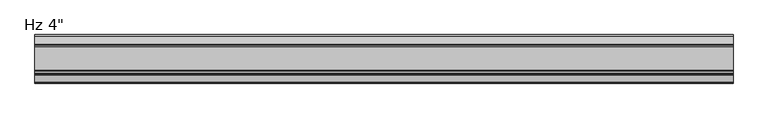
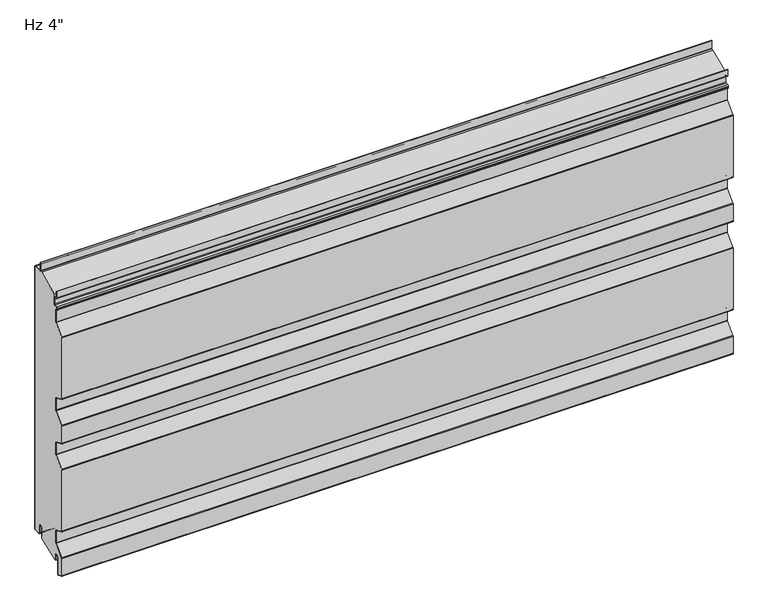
"""IFC4 building model written with IfcOpenShell, lengths in millimetres: plate geometry."""

from ifc_helpers import new_model, si_unit, point, frame, frame_2d, origin, place, context, project, spatial, polyline, circle_curve, trimmed, segment, composite_curve, outline, extrude, source, transform, mapped, element, save


def plate_84ef4001(model_context):
    return source(origin(), model_context, "Body", "SweptSolid", [
        extrude(outline(composite_curve([segment(polyline([(-26.4011912, 19.05), (-26.4011912, -3.1976612), (-74.633822, -23.01875), (-76.7886912, -23.01875), (-76.7886912, -11.90625)]), True, "CONTINUOUS"), segment(trimmed(circle_curve(frame_2d((-81.7574412, -11.90625)), 4.96875), [point((-76.7886912, -11.90625))], [point((-86.7261912, -11.90625))], True, "CARTESIAN"), True, "CONTINUOUS"), segment(polyline([(-86.7261912, -11.90625), (-86.7261912, -48.8194049)]), True, "CONTINUOUS"), segment(trimmed(circle_curve(frame_2d((-88.1074412, -48.8194049)), 1.38125), [point((-86.7261912, -48.8194049))], [point((-88.6666208, -50.0824052))], False, "CARTESIAN"), True, "CONTINUOUS"), segment(polyline([(-88.6666208, -50.0824052), (-99.7779296, -45.1629946)]), True, "CONTINUOUS"), segment(trimmed(circle_curve(frame_2d((-99.21875, -43.8999943)), 1.38125), [point((-99.7779296, -45.1629946))], [point((-100.6, -43.8999943))], False, "CARTESIAN"), True, "CONTINUOUS"), segment(polyline([(-100.6, -43.8999943), (-100.6, -5.0536946)]), True, "CONTINUOUS"), segment(trimmed(circle_curve(frame_2d((-98.5012, -5.0536946)), 2.0988), [point((-100.6, -5.0536946))], [point((-100.0092077, -3.5939431))], False, "CARTESIAN"), True, "CONTINUOUS"), segment(polyline([(-100.0092077, -3.5939431), (-79.8145567, 17.2682996)]), True, "CONTINUOUS"), segment(trimmed(circle_curve(frame_2d((-81.6737, 19.0679503)), 2.5875), [point((-79.8145567, 17.2682996))], [point((-79.0862, 19.0679503))], True, "CARTESIAN"), True, "CONTINUOUS"), segment(polyline([(-79.0862, 19.0679503), (-79.0862, 45.5917981)]), True, "CONTINUOUS"), segment(trimmed(circle_curve(frame_2d((-81.6737, 45.5917981)), 2.5875), [point((-79.0862, 45.5917981))], [point((-80.6261871, 47.9577806))], True, "CARTESIAN"), True, "CONTINUOUS"), segment(polyline([(-80.6261871, 47.9577806), (-99.7779296, 56.4370054)]), True, "CONTINUOUS"), segment(trimmed(circle_curve(frame_2d((-99.21875, 57.7000057)), 1.38125), [point((-99.7779296, 56.4370054))], [point((-100.6, 57.7000057))], False, "CARTESIAN"), True, "CONTINUOUS"), segment(polyline([(-100.6, 57.7000057), (-100.6, 198.4367131)]), True, "CONTINUOUS"), segment(trimmed(circle_curve(frame_2d((-99.21875, 198.4367131)), 1.38125), [point((-100.6, 198.4367131))], [point((-100.2111912, 199.3973962))], False, "CARTESIAN"), True, "CONTINUOUS"), segment(polyline([(-100.2111912, 199.3973962), (-79.8145567, 220.4682996)]), True, "CONTINUOUS"), segment(trimmed(circle_curve(frame_2d((-81.6737, 222.2679503)), 2.5875), [point((-79.8145567, 220.4682996))], [point((-79.0862, 222.2679503))], True, "CARTESIAN"), True, "CONTINUOUS"), segment(polyline([(-79.0862, 222.2679503), (-79.0862, 248.7917981)]), True, "CONTINUOUS"), segment(trimmed(circle_curve(frame_2d((-81.6737, 248.7917981)), 2.5875), [point((-79.0862, 248.7917981))], [point((-80.6261871, 251.1577806))], True, "CARTESIAN"), True, "CONTINUOUS"), segment(polyline([(-80.6261871, 251.1577806), (-99.7779296, 259.6370054)]), True, "CONTINUOUS"), segment(trimmed(circle_curve(frame_2d((-99.21875, 260.9000057)), 1.38125), [point((-99.7779296, 259.6370054))], [point((-100.6, 260.9000057))], False, "CARTESIAN"), True, "CONTINUOUS"), segment(polyline([(-100.6, 260.9000057), (-100.6, 300.0367131)]), True, "CONTINUOUS"), segment(trimmed(circle_curve(frame_2d((-99.21875, 300.0367131)), 1.38125), [point((-100.6, 300.0367131))], [point((-100.2111912, 300.9973962))], False, "CARTESIAN"), True, "CONTINUOUS"), segment(polyline([(-100.2111912, 300.9973962), (-79.8145567, 322.0682996)]), True, "CONTINUOUS"), segment(trimmed(circle_curve(frame_2d((-81.6737, 323.8679503)), 2.5875), [point((-79.8145567, 322.0682996))], [point((-79.0862, 323.8679503))], True, "CARTESIAN"), True, "CONTINUOUS"), segment(polyline([(-79.0862, 323.8679503), (-79.0862, 350.3917981)]), True, "CONTINUOUS"), segment(trimmed(circle_curve(frame_2d((-81.6737, 350.3917981)), 2.5875), [point((-79.0862, 350.3917981))], [point((-80.6261871, 352.7577806))], True, "CARTESIAN"), True, "CONTINUOUS"), segment(polyline([(-80.6261871, 352.7577806), (-99.7779296, 361.2370054)]), True, "CONTINUOUS"), segment(trimmed(circle_curve(frame_2d((-99.21875, 362.5000057)), 1.38125), [point((-99.7779296, 361.2370054))], [point((-100.6, 362.5000057))], False, "CARTESIAN"), True, "CONTINUOUS"), segment(polyline([(-100.6, 362.5000057), (-100.6, 503.2367131)]), True, "CONTINUOUS"), segment(trimmed(circle_curve(frame_2d((-99.21875, 503.2367131)), 1.38125), [point((-100.6, 503.2367131))], [point((-100.2111912, 504.1973962))], False, "CARTESIAN"), True, "CONTINUOUS"), segment(polyline([(-100.2111912, 504.1973962), (-79.8145567, 525.2682996)]), True, "CONTINUOUS"), segment(trimmed(circle_curve(frame_2d((-81.6737, 527.0679503)), 2.5875), [point((-79.8145567, 525.2682996))], [point((-79.0862, 527.0679503))], True, "CARTESIAN"), True, "CONTINUOUS"), segment(polyline([(-79.0862, 527.0679503), (-79.0862, 553.5917981)]), True, "CONTINUOUS"), segment(trimmed(circle_curve(frame_2d((-81.6737, 553.5917981)), 2.5875), [point((-79.0862, 553.5917981))], [point((-80.6261871, 555.9577806))], True, "CARTESIAN"), True, "CONTINUOUS"), segment(polyline([(-80.6261871, 555.9577806), (-82.3166208, 556.7062016)]), True, "CONTINUOUS"), segment(trimmed(circle_curve(frame_2d((-81.7574412, 557.9692019)), 1.38125), [point((-82.3166208, 556.7062016))], [point((-83.1386912, 557.9692019))], False, "CARTESIAN"), True, "CONTINUOUS"), segment(polyline([(-83.1386912, 557.9692019), (-83.1386912, 560.2967085)]), True, "CONTINUOUS"), segment(trimmed(circle_curve(frame_2d((-81.7574412, 560.2967085)), 1.38125), [point((-83.1386912, 560.2967085))], [point((-81.8297302, 561.6760655))], False, "CARTESIAN"), True, "CONTINUOUS"), segment(polyline([(-81.8297302, 561.6760655), (-76.0657719, 561.9781418)]), True, "CONTINUOUS"), segment(trimmed(circle_curve(frame_2d((-76.2011912, 564.5620957)), 2.5875), [point((-76.0657719, 561.9781418))], [point((-73.6136912, 564.5620957))], True, "CARTESIAN"), True, "CONTINUOUS"), segment(polyline([(-73.6136912, 564.5620957), (-73.6136912, 586.9892934), (-24.8719682, 607.80625), (-2.3824412, 607.80625)]), True, "CONTINUOUS"), segment(trimmed(circle_curve(frame_2d((-2.3824412, 606.425)), 1.38125), [point((-2.3824412, 607.80625))], [point((-1.0011912, 606.425))], False, "CARTESIAN"), True, "CONTINUOUS"), segment(polyline([(-1.0011912, 606.425), (-1.0011912, 3.175)]), True, "CONTINUOUS"), segment(trimmed(circle_curve(frame_2d((-2.3824412, 3.175)), 1.38125), [point((-1.0011912, 3.175))], [point((-2.3824412, 1.79375))], False, "CARTESIAN"), True, "CONTINUOUS"), segment(polyline([(-2.3824412, 1.79375), (-15.0824412, 1.79375)]), True, "CONTINUOUS"), segment(trimmed(circle_curve(frame_2d((-15.0824412, 3.175)), 1.38125), [point((-15.0824412, 1.79375))], [point((-16.4636912, 3.175))], False, "CARTESIAN"), True, "CONTINUOUS"), segment(polyline([(-16.4636912, 3.175), (-16.4636912, 19.05)]), True, "CONTINUOUS"), segment(trimmed(circle_curve(frame_2d((-21.4324412, 19.05)), 4.96875), [point((-16.4636912, 19.05))], [point((-26.4011912, 19.05))], True, "CARTESIAN"), True, "CONTINUOUS")], self_intersect=False)), frame((-730.0, 0.0, 0.0), z_axis=(1.0, 0.0, 0.0), x_axis=(0.0, 1.0, 0.0)), (0.0, 0.0, 1.0), 1460.0),
        extrude(outline(composite_curve([segment(polyline([(-25.4, 0.79375), (-26.4, 0.79375), (-26.4, 19.05)]), True, "CONTINUOUS"), segment(trimmed(circle_curve(frame_2d((-21.43125, 19.05)), 4.96875), [point((-26.4, 19.05))], [point((-16.4625, 19.05))], False, "CARTESIAN"), True, "CONTINUOUS"), segment(polyline([(-16.4625, 19.05), (-16.4625, 3.175)]), True, "CONTINUOUS"), segment(trimmed(circle_curve(frame_2d((-15.08125, 3.175)), 1.38125), [point((-16.4625, 3.175))], [point((-15.08125, 1.79375))], True, "CARTESIAN"), True, "CONTINUOUS"), segment(polyline([(-15.08125, 1.79375), (-2.38125, 1.79375)]), True, "CONTINUOUS"), segment(trimmed(circle_curve(frame_2d((-2.38125, 3.175)), 1.38125), [point((-2.38125, 1.79375))], [point((-1.0, 3.175))], True, "CARTESIAN"), True, "CONTINUOUS"), segment(polyline([(-1.0, 3.175), (-1.0, 606.425)]), True, "CONTINUOUS"), segment(trimmed(circle_curve(frame_2d((-2.38125, 606.425)), 1.38125), [point((-1.0, 606.425))], [point((-2.38125, 607.80625))], True, "CARTESIAN"), True, "CONTINUOUS"), segment(polyline([(-2.38125, 607.80625), (-19.446875, 607.80625)]), True, "CONTINUOUS"), segment(trimmed(circle_curve(frame_2d((-19.446875, 610.39375)), 2.5875), [point((-19.446875, 607.80625))], [point((-22.034375, 610.39375))], False, "CARTESIAN"), True, "CONTINUOUS"), segment(polyline([(-22.034375, 610.39375), (-22.034375, 627.85625), (-21.034375, 627.85625), (-21.034375, 610.39375)]), True, "CONTINUOUS"), segment(trimmed(circle_curve(frame_2d((-19.446875, 610.39375)), 1.5875), [point((-21.034375, 610.39375))], [point((-19.446875, 608.80625))], True, "CARTESIAN"), True, "CONTINUOUS"), segment(polyline([(-19.446875, 608.80625), (-2.38125, 608.80625)]), True, "CONTINUOUS"), segment(trimmed(circle_curve(frame_2d((-2.38125, 606.425)), 2.38125), [point((-2.38125, 608.80625))], [point((0.0, 606.425))], False, "CARTESIAN"), True, "CONTINUOUS"), segment(polyline([(0.0, 606.425), (0.0, 3.175)]), True, "CONTINUOUS"), segment(trimmed(circle_curve(frame_2d((-2.38125, 3.175)), 2.38125), [point((0.0, 3.175))], [point((-2.38125, 0.79375))], False, "CARTESIAN"), True, "CONTINUOUS"), segment(polyline([(-2.38125, 0.79375), (-15.08125, 0.79375)]), True, "CONTINUOUS"), segment(trimmed(circle_curve(frame_2d((-15.08125, 3.175)), 2.38125), [point((-15.08125, 0.79375))], [point((-17.4625, 3.175))], False, "CARTESIAN"), True, "CONTINUOUS"), segment(polyline([(-17.4625, 3.175), (-17.4625, 19.05)]), True, "CONTINUOUS"), segment(trimmed(circle_curve(frame_2d((-21.43125, 19.05)), 3.96875), [point((-17.4625, 19.05))], [point((-25.4, 19.05))], True, "CARTESIAN"), True, "CONTINUOUS"), segment(polyline([(-25.4, 19.05), (-25.4, 0.79375)]), True, "CONTINUOUS")], self_intersect=False)), frame((-730.0, 0.0, 0.0), z_axis=(1.0, 0.0, 0.0), x_axis=(0.0, 1.0, 0.0)), (0.0, 0.0, 1.0), 1460.0),
        extrude(outline(composite_curve([segment(polyline([(-85.7261912, -11.90625), (-85.7261912, -48.8194049)]), True, "CONTINUOUS"), segment(trimmed(circle_curve(frame_2d((-88.1074412, -48.8194049)), 2.38125), [point((-85.7261912, -48.8194049))], [point((-89.0714567, -50.9967946))], False, "CARTESIAN"), True, "CONTINUOUS"), segment(polyline([(-89.0714567, -50.9967946), (-100.1827655, -46.0773839)]), True, "CONTINUOUS"), segment(trimmed(circle_curve(frame_2d((-99.21875, -43.8999943)), 2.38125), [point((-100.1827655, -46.0773839))], [point((-101.6, -43.8999943))], False, "CARTESIAN"), True, "CONTINUOUS"), segment(polyline([(-101.6, -43.8999943), (-101.6, -5.0536946)]), True, "CONTINUOUS"), segment(trimmed(circle_curve(frame_2d((-98.5012, -5.0536946)), 3.0988), [point((-101.6, -5.0536946))], [point((-100.7277172, -2.8984259))], False, "CARTESIAN"), True, "CONTINUOUS"), segment(polyline([(-100.7277172, -2.8984259), (-80.5330662, 17.9638168)]), True, "CONTINUOUS"), segment(trimmed(circle_curve(frame_2d((-81.6737, 19.0679503)), 1.5875), [point((-80.5330662, 17.9638168))], [point((-80.0862, 19.0679503))], True, "CARTESIAN"), True, "CONTINUOUS"), segment(polyline([(-80.0862, 19.0679503), (-80.0862, 45.5917981)]), True, "CONTINUOUS"), segment(trimmed(circle_curve(frame_2d((-81.6737, 45.5917981)), 1.5875), [point((-80.0862, 45.5917981))], [point((-81.031023, 47.0433912))], True, "CARTESIAN"), True, "CONTINUOUS"), segment(polyline([(-81.031023, 47.0433912), (-100.1827655, 55.5226161)]), True, "CONTINUOUS"), segment(trimmed(circle_curve(frame_2d((-99.21875, 57.7000057)), 2.38125), [point((-100.1827655, 55.5226161))], [point((-101.6, 57.7000057))], False, "CARTESIAN"), True, "CONTINUOUS"), segment(polyline([(-101.6, 57.7000057), (-101.6, 198.4367131)]), True, "CONTINUOUS"), segment(trimmed(circle_curve(frame_2d((-99.21875, 198.4367131)), 2.38125), [point((-101.6, 198.4367131))], [point((-100.9297007, 200.0929134))], False, "CARTESIAN"), True, "CONTINUOUS"), segment(polyline([(-100.9297007, 200.0929134), (-80.5330662, 221.1638168)]), True, "CONTINUOUS"), segment(trimmed(circle_curve(frame_2d((-81.6737, 222.2679503)), 1.5875), [point((-80.5330662, 221.1638168))], [point((-80.0862, 222.2679503))], True, "CARTESIAN"), True, "CONTINUOUS"), segment(polyline([(-80.0862, 222.2679503), (-80.0862, 248.7917981)]), True, "CONTINUOUS"), segment(trimmed(circle_curve(frame_2d((-81.6737, 248.7917981)), 1.5875), [point((-80.0862, 248.7917981))], [point((-81.031023, 250.2433912))], True, "CARTESIAN"), True, "CONTINUOUS"), segment(polyline([(-81.031023, 250.2433912), (-100.1827655, 258.7226161)]), True, "CONTINUOUS"), segment(trimmed(circle_curve(frame_2d((-99.21875, 260.9000057)), 2.38125), [point((-100.1827655, 258.7226161))], [point((-101.6, 260.9000057))], False, "CARTESIAN"), True, "CONTINUOUS"), segment(polyline([(-101.6, 260.9000057), (-101.6, 300.0367131)]), True, "CONTINUOUS"), segment(trimmed(circle_curve(frame_2d((-99.21875, 300.0367131)), 2.38125), [point((-101.6, 300.0367131))], [point((-100.9297007, 301.6929134))], False, "CARTESIAN"), True, "CONTINUOUS"), segment(polyline([(-100.9297007, 301.6929134), (-80.5330662, 322.7638168)]), True, "CONTINUOUS"), segment(trimmed(circle_curve(frame_2d((-81.6737, 323.8679503)), 1.5875), [point((-80.5330662, 322.7638168))], [point((-80.0862, 323.8679503))], True, "CARTESIAN"), True, "CONTINUOUS"), segment(polyline([(-80.0862, 323.8679503), (-80.0862, 350.3917981)]), True, "CONTINUOUS"), segment(trimmed(circle_curve(frame_2d((-81.6737, 350.3917981)), 1.5875), [point((-80.0862, 350.3917981))], [point((-81.031023, 351.8433912))], True, "CARTESIAN"), True, "CONTINUOUS"), segment(polyline([(-81.031023, 351.8433912), (-100.1827655, 360.3226161)]), True, "CONTINUOUS"), segment(trimmed(circle_curve(frame_2d((-99.21875, 362.5000057)), 2.38125), [point((-100.1827655, 360.3226161))], [point((-101.6, 362.5000057))], False, "CARTESIAN"), True, "CONTINUOUS"), segment(polyline([(-101.6, 362.5000057), (-101.6, 503.2367131)]), True, "CONTINUOUS"), segment(trimmed(circle_curve(frame_2d((-99.21875, 503.2367131)), 2.38125), [point((-101.6, 503.2367131))], [point((-100.9297007, 504.8929134))], False, "CARTESIAN"), True, "CONTINUOUS"), segment(polyline([(-100.9297007, 504.8929134), (-80.5330662, 525.9638168)]), True, "CONTINUOUS"), segment(trimmed(circle_curve(frame_2d((-81.6737, 527.0679503)), 1.5875), [point((-80.5330662, 525.9638168))], [point((-80.0862, 527.0679503))], True, "CARTESIAN"), True, "CONTINUOUS"), segment(polyline([(-80.0862, 527.0679503), (-80.0862, 553.5917981)]), True, "CONTINUOUS"), segment(trimmed(circle_curve(frame_2d((-81.6737, 553.5917981)), 1.5875), [point((-80.0862, 553.5917981))], [point((-81.031023, 555.0433912))], True, "CARTESIAN"), True, "CONTINUOUS"), segment(polyline([(-81.031023, 555.0433912), (-82.7214567, 555.7918123)]), True, "CONTINUOUS"), segment(trimmed(circle_curve(frame_2d((-81.7574412, 557.9692019)), 2.38125), [point((-82.7214567, 555.7918123))], [point((-84.1386912, 557.9692019))], False, "CARTESIAN"), True, "CONTINUOUS"), segment(polyline([(-84.1386912, 557.9692019), (-84.1386912, 560.2967085)]), True, "CONTINUOUS"), segment(trimmed(circle_curve(frame_2d((-81.7574412, 560.2967085)), 2.38125), [point((-84.1386912, 560.2967085))], [point((-81.8820662, 562.6746951))], False, "CARTESIAN"), True, "CONTINUOUS"), segment(polyline([(-81.8820662, 562.6746951), (-76.1181078, 562.9767713)]), True, "CONTINUOUS"), segment(trimmed(circle_curve(frame_2d((-76.2011912, 564.5620957)), 1.5875), [point((-76.1181078, 562.9767713))], [point((-74.6136912, 564.5620957))], True, "CARTESIAN"), True, "CONTINUOUS"), segment(polyline([(-74.6136912, 564.5620957), (-74.6136912, 579.4375)]), True, "CONTINUOUS"), segment(trimmed(circle_curve(frame_2d((-76.2011912, 579.4375)), 1.5875), [point((-74.6136912, 579.4375))], [point((-76.2011912, 581.025))], True, "CARTESIAN"), True, "CONTINUOUS"), segment(polyline([(-76.2011912, 581.025), (-79.7730662, 581.025)]), True, "CONTINUOUS"), segment(trimmed(circle_curve(frame_2d((-79.7730662, 583.40625)), 2.38125), [point((-79.7730662, 581.025))], [point((-82.1543162, 583.40625))], False, "CARTESIAN"), True, "CONTINUOUS"), segment(polyline([(-82.1543162, 583.40625), (-82.1543162, 597.69375), (-81.1543162, 597.69375), (-81.1543162, 583.40625)]), True, "CONTINUOUS"), segment(trimmed(circle_curve(frame_2d((-79.7730662, 583.40625)), 1.38125), [point((-81.1543162, 583.40625))], [point((-79.7730662, 582.025))], True, "CARTESIAN"), True, "CONTINUOUS"), segment(polyline([(-79.7730662, 582.025), (-76.2011912, 582.025)]), True, "CONTINUOUS"), segment(trimmed(circle_curve(frame_2d((-76.2011912, 579.4375)), 2.5875), [point((-76.2011912, 582.025))], [point((-73.6136912, 579.4375))], False, "CARTESIAN"), True, "CONTINUOUS"), segment(polyline([(-73.6136912, 579.4375), (-73.6136912, 564.5620957)]), True, "CONTINUOUS"), segment(trimmed(circle_curve(frame_2d((-76.2011912, 564.5620957)), 2.5875), [point((-73.6136912, 564.5620957))], [point((-76.0657719, 561.9781418))], False, "CARTESIAN"), True, "CONTINUOUS"), segment(polyline([(-76.0657719, 561.9781418), (-81.8297302, 561.6760655)]), True, "CONTINUOUS"), segment(trimmed(circle_curve(frame_2d((-81.7574412, 560.2967085)), 1.38125), [point((-81.8297302, 561.6760655))], [point((-83.1386912, 560.2967085))], True, "CARTESIAN"), True, "CONTINUOUS"), segment(polyline([(-83.1386912, 560.2967085), (-83.1386912, 557.9692019)]), True, "CONTINUOUS"), segment(trimmed(circle_curve(frame_2d((-81.7574412, 557.9692019)), 1.38125), [point((-83.1386912, 557.9692019))], [point((-82.3166208, 556.7062016))], True, "CARTESIAN"), True, "CONTINUOUS"), segment(polyline([(-82.3166208, 556.7062016), (-80.6261871, 555.9577806)]), True, "CONTINUOUS"), segment(trimmed(circle_curve(frame_2d((-81.6737, 553.5917981)), 2.5875), [point((-80.6261871, 555.9577806))], [point((-79.0862, 553.5917981))], False, "CARTESIAN"), True, "CONTINUOUS"), segment(polyline([(-79.0862, 553.5917981), (-79.0862, 527.0679503)]), True, "CONTINUOUS"), segment(trimmed(circle_curve(frame_2d((-81.6737, 527.0679503)), 2.5875), [point((-79.0862, 527.0679503))], [point((-79.8145567, 525.2682996))], False, "CARTESIAN"), True, "CONTINUOUS"), segment(polyline([(-79.8145567, 525.2682996), (-100.2111912, 504.1973962)]), True, "CONTINUOUS"), segment(trimmed(circle_curve(frame_2d((-99.21875, 503.2367131)), 1.38125), [point((-100.2111912, 504.1973962))], [point((-100.6, 503.2367131))], True, "CARTESIAN"), True, "CONTINUOUS"), segment(polyline([(-100.6, 503.2367131), (-100.6, 362.5000057)]), True, "CONTINUOUS"), segment(trimmed(circle_curve(frame_2d((-99.21875, 362.5000057)), 1.38125), [point((-100.6, 362.5000057))], [point((-99.7779296, 361.2370054))], True, "CARTESIAN"), True, "CONTINUOUS"), segment(polyline([(-99.7779296, 361.2370054), (-80.6261871, 352.7577806)]), True, "CONTINUOUS"), segment(trimmed(circle_curve(frame_2d((-81.6737, 350.3917981)), 2.5875), [point((-80.6261871, 352.7577806))], [point((-79.0862, 350.3917981))], False, "CARTESIAN"), True, "CONTINUOUS"), segment(polyline([(-79.0862, 350.3917981), (-79.0862, 323.8679503)]), True, "CONTINUOUS"), segment(trimmed(circle_curve(frame_2d((-81.6737, 323.8679503)), 2.5875), [point((-79.0862, 323.8679503))], [point((-79.8145567, 322.0682996))], False, "CARTESIAN"), True, "CONTINUOUS"), segment(polyline([(-79.8145567, 322.0682996), (-100.2111912, 300.9973962)]), True, "CONTINUOUS"), segment(trimmed(circle_curve(frame_2d((-99.21875, 300.0367131)), 1.38125), [point((-100.2111912, 300.9973962))], [point((-100.6, 300.0367131))], True, "CARTESIAN"), True, "CONTINUOUS"), segment(polyline([(-100.6, 300.0367131), (-100.6, 260.9000057)]), True, "CONTINUOUS"), segment(trimmed(circle_curve(frame_2d((-99.21875, 260.9000057)), 1.38125), [point((-100.6, 260.9000057))], [point((-99.7779296, 259.6370054))], True, "CARTESIAN"), True, "CONTINUOUS"), segment(polyline([(-99.7779296, 259.6370054), (-80.6261871, 251.1577806)]), True, "CONTINUOUS"), segment(trimmed(circle_curve(frame_2d((-81.6737, 248.7917981)), 2.5875), [point((-80.6261871, 251.1577806))], [point((-79.0862, 248.7917981))], False, "CARTESIAN"), True, "CONTINUOUS"), segment(polyline([(-79.0862, 248.7917981), (-79.0862, 222.2679503)]), True, "CONTINUOUS"), segment(trimmed(circle_curve(frame_2d((-81.6737, 222.2679503)), 2.5875), [point((-79.0862, 222.2679503))], [point((-79.8145567, 220.4682996))], False, "CARTESIAN"), True, "CONTINUOUS"), segment(polyline([(-79.8145567, 220.4682996), (-100.2111912, 199.3973962)]), True, "CONTINUOUS"), segment(trimmed(circle_curve(frame_2d((-99.21875, 198.4367131)), 1.38125), [point((-100.2111912, 199.3973962))], [point((-100.6, 198.4367131))], True, "CARTESIAN"), True, "CONTINUOUS"), segment(polyline([(-100.6, 198.4367131), (-100.6, 57.7000057)]), True, "CONTINUOUS"), segment(trimmed(circle_curve(frame_2d((-99.21875, 57.7000057)), 1.38125), [point((-100.6, 57.7000057))], [point((-99.7779296, 56.4370054))], True, "CARTESIAN"), True, "CONTINUOUS"), segment(polyline([(-99.7779296, 56.4370054), (-80.6261871, 47.9577806)]), True, "CONTINUOUS"), segment(trimmed(circle_curve(frame_2d((-81.6737, 45.5917981)), 2.5875), [point((-80.6261871, 47.9577806))], [point((-79.0862, 45.5917981))], False, "CARTESIAN"), True, "CONTINUOUS"), segment(polyline([(-79.0862, 45.5917981), (-79.0862, 19.0679503)]), True, "CONTINUOUS"), segment(trimmed(circle_curve(frame_2d((-81.6737, 19.0679503)), 2.5875), [point((-79.0862, 19.0679503))], [point((-79.8145567, 17.2682996))], False, "CARTESIAN"), True, "CONTINUOUS"), segment(polyline([(-79.8145567, 17.2682996), (-100.0092077, -3.5939431)]), True, "CONTINUOUS"), segment(trimmed(circle_curve(frame_2d((-98.5012, -5.0536946)), 2.0988), [point((-100.0092077, -3.5939431))], [point((-100.6, -5.0536946))], True, "CARTESIAN"), True, "CONTINUOUS"), segment(polyline([(-100.6, -5.0536946), (-100.6, -43.8999943)]), True, "CONTINUOUS"), segment(trimmed(circle_curve(frame_2d((-99.21875, -43.8999943)), 1.38125), [point((-100.6, -43.8999943))], [point((-99.7779296, -45.1629946))], True, "CARTESIAN"), True, "CONTINUOUS"), segment(polyline([(-99.7779296, -45.1629946), (-88.6666208, -50.0824052)]), True, "CONTINUOUS"), segment(trimmed(circle_curve(frame_2d((-88.1074412, -48.8194049)), 1.38125), [point((-88.6666208, -50.0824052))], [point((-86.7261912, -48.8194049))], True, "CARTESIAN"), True, "CONTINUOUS"), segment(polyline([(-86.7261912, -48.8194049), (-86.7261912, -11.90625)]), True, "CONTINUOUS"), segment(trimmed(circle_curve(frame_2d((-81.7574412, -11.90625)), 4.96875), [point((-86.7261912, -11.90625))], [point((-76.7886912, -11.90625))], False, "CARTESIAN"), True, "CONTINUOUS"), segment(polyline([(-76.7886912, -11.90625), (-76.7886912, -23.01875), (-77.7886912, -23.01875), (-77.7886912, -11.90625)]), True, "CONTINUOUS"), segment(trimmed(circle_curve(frame_2d((-81.7574412, -11.90625)), 3.96875), [point((-77.7886912, -11.90625))], [point((-85.7261912, -11.90625))], True, "CARTESIAN"), True, "CONTINUOUS")], self_intersect=False)), frame((-730.0, 0.0, 0.0), z_axis=(1.0, 0.0, 0.0), x_axis=(0.0, 1.0, 0.0)), (0.0, 0.0, 1.0), 1460.0),
    ])


if __name__ == "__main__":
    model = new_model("IFC4")
    model_context = context("Model", 3, world=origin())
    ifc_project = project(units=[si_unit("LENGTHUNIT", "METRE", prefix="MILLI")], contexts=[model_context])
    site = spatial("IfcSite", under=ifc_project)
    building = spatial("IfcBuilding", under=site)
    placement = place(None, origin())
    plate_shape = plate_84ef4001(model_context)
    element("IfcPlate", 1, ObjectType="KIP-24-DWR-R19-CP-Hz-A : Hz 4\"", at=placement, inside=building, context=model_context, shape_type="MappedRepresentation", body=[
        mapped(plate_shape, transform((0.0, 0.0, 0.0), x_axis=(1.0, 0.0, 0.0), y_axis=(0.0, 1.0, 0.0), z_axis=(0.0, 0.0, 1.0))),
    ])
    save(model, "model.ifc")
